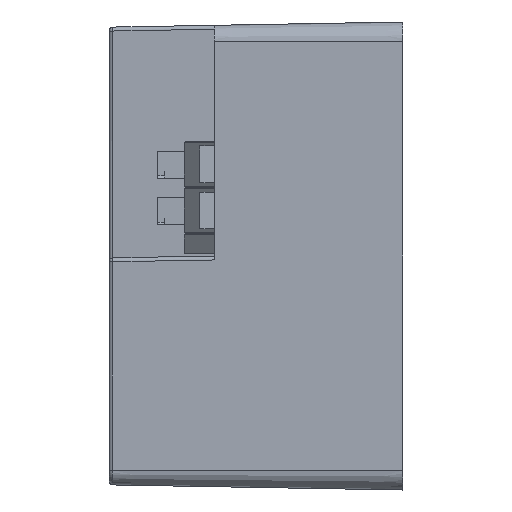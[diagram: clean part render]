
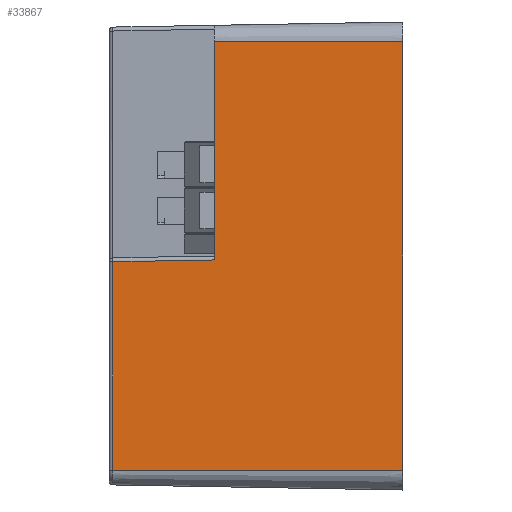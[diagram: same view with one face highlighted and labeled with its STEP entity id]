
A CAD part, left-side view. The second image highlights one B-rep face of the part: STEP entity #33867.
In plain terms, the highlighted planar face has unit normal (-1, 0.018, 0).
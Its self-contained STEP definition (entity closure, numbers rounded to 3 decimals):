
#73=DIRECTION('',(0.,0.,1.));
#74=VECTOR('',#73,32.5);
#75=CARTESIAN_POINT('',(-40.,0.,-16.25));
#76=LINE('',#75,#74);
#234=DIRECTION('',(0.,0.,-1.));
#235=VECTOR('',#234,16.55);
#236=CARTESIAN_POINT('',(-39.75,14.3,16.25));
#237=LINE('',#236,#235);
#262=DIRECTION('',(0.017,1.,-0.017));
#263=VECTOR('',#262,7.708);
#264=CARTESIAN_POINT('',(-39.75,14.3,-0.3));
#265=LINE('',#264,#263);
#269=DIRECTION('',(-0.017,-1.,0.));
#270=VECTOR('',#269,14.302);
#271=CARTESIAN_POINT('',(-39.75,14.3,16.25));
#272=LINE('',#271,#270);
#276=DIRECTION('',(-0.017,-1.,0.));
#277=VECTOR('',#276,22.009);
#278=CARTESIAN_POINT('',(-39.616,22.005,-16.25));
#279=LINE('',#278,#277);
#283=DIRECTION('',(0.,0.,1.));
#284=VECTOR('',#283,15.816);
#285=CARTESIAN_POINT('',(-39.616,22.005,-16.25));
#286=LINE('',#285,#284);
#28496=CARTESIAN_POINT('',(-40.,0.,16.25));
#28498=VERTEX_POINT('',#28496);
#28503=CARTESIAN_POINT('',(-40.,0.,-16.25));
#28505=VERTEX_POINT('',#28503);
#28516=CARTESIAN_POINT('',(-39.75,14.3,16.25));
#28518=VERTEX_POINT('',#28516);
#28618=CARTESIAN_POINT('',(-39.75,14.3,-0.3));
#28619=CARTESIAN_POINT('',(-39.616,22.005,
-0.434));
#28620=VERTEX_POINT('',#28618);
#28621=VERTEX_POINT('',#28619);
#28666=CARTESIAN_POINT('',(-39.616,22.005,
-16.25));
#28667=VERTEX_POINT('',#28666);
#33851=CARTESIAN_POINT('',(-40.,0.,-19.523));
#33852=DIRECTION('',(-1.,0.017,0.));
#33853=DIRECTION('',(0.,0.,-1.));
#33854=AXIS2_PLACEMENT_3D('',#33851,#33852,#33853);
#33855=PLANE('',#33854);
#33857=ORIENTED_EDGE('',*,*,#33856,.F.);
#33858=ORIENTED_EDGE('',*,*,#33822,.F.);
#33859=ORIENTED_EDGE('',*,*,#33805,.T.);
#33860=ORIENTED_EDGE('',*,*,#33739,.F.);
#33862=ORIENTED_EDGE('',*,*,#33861,.F.);
#33864=ORIENTED_EDGE('',*,*,#33863,.T.);
#33865=EDGE_LOOP('',(#33857,#33858,#33859,#33860,#33862,#33864));
#33866=FACE_OUTER_BOUND('',#33865,.F.);
#33867=ADVANCED_FACE('',(#33866),#33855,.T.);
#33739=EDGE_CURVE('',#28505,#28498,#76,.T.);
#33805=EDGE_CURVE('',#28518,#28498,#272,.T.);
#33822=EDGE_CURVE('',#28518,#28620,#237,.T.);
#33856=EDGE_CURVE('',#28620,#28621,#265,.T.);
#33861=EDGE_CURVE('',#28667,#28505,#279,.T.);
#33863=EDGE_CURVE('',#28667,#28621,#286,.T.);
